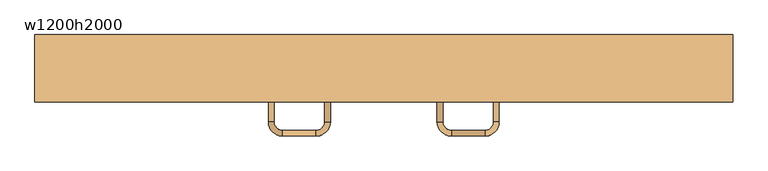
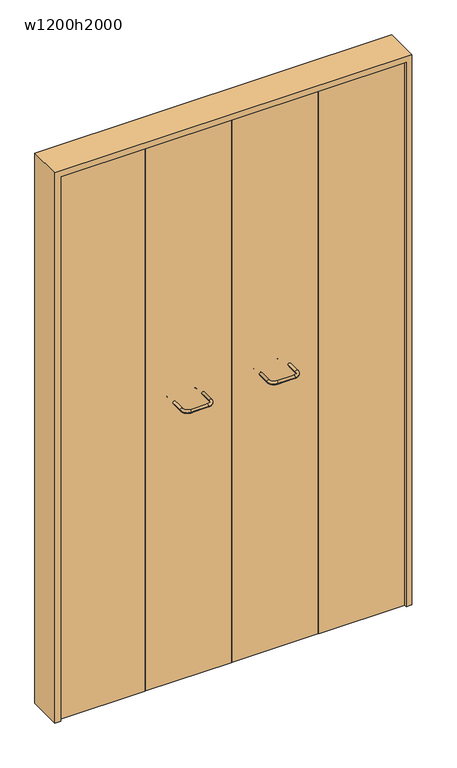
"""IFC4 building model written with IfcOpenShell, lengths in millimetres: door geometry, 木製折戸 : w1200h2000."""

from ifc_helpers import new_model, si_unit, point, frame, origin, origin_with_axes, place, context, project, spatial, polyline, circle_curve, ellipse_curve, trimmed, outline, extrude, source, transform, mapped, element, save
from ifc_brep_helpers import cylinder_surface, revolved_surface, advanced_brep


def w1200h2000_99d19fb3(model_context):
    return source(origin(), model_context, "Body", "SolidModel", [
        extrude(outline(polyline([(2020.0, -620.0), (0.0, -620.0), (0.0, -600.0), (2000.0, -600.0), (2000.0, 600.0), (0.0, 600.0), (0.0, 620.0), (2020.0, 620.0), (2020.0, -620.0)])), frame((0.0, -60.0, 0.0), z_axis=(0.0, 1.0, 0.0), x_axis=(0.0, 0.0, 1.0)), (0.0, 0.0, 1.0), 120.0),
        extrude(outline(polyline([(298.0, -20.0), (298.0, -50.0), (2.0, -50.0), (2.0, -20.0), (298.0, -20.0)])), origin_with_axes(), (0.0, 0.0, 1.0), 2000.0),
        extrude(outline(polyline([(600.0, -20.0), (600.0, -50.0), (302.0, -50.0), (302.0, -20.0), (600.0, -20.0)])), origin_with_axes(), (0.0, 0.0, 1.0), 2000.0),
        extrude(outline(polyline([(-2.0, -20.0), (-2.0, -50.0), (-298.0, -50.0), (-298.0, -20.0), (-2.0, -20.0)])), origin_with_axes(), (0.0, 0.0, 1.0), 2000.0),
        extrude(outline(polyline([(-302.0, -20.0), (-302.0, -50.0), (-600.0, -50.0), (-600.0, -20.0), (-302.0, -20.0)])), origin_with_axes(), (0.0, 0.0, 1.0), 2000.0),
        advanced_brep(
        [(95.0, -20.0, 1025.0), (105.0, -20.0, 1025.0), (120.0, -5.0, 1025.0), (120.0, 5.0, 1025.0), (95.0, -95.0, 1025.0), (105.0, -95.0, 1025.0), (120.0, -120.0, 1025.0), (120.0, -110.0, 1025.0), (180.0, -120.0, 1025.0), (180.0, -110.0, 1025.0), (205.0, -95.0, 1025.0), (195.0, -95.0, 1025.0), (205.0, -20.0, 1025.0), (195.0, -20.0, 1025.0), (180.0, 5.0, 1025.0), (180.0, -5.0, 1025.0)],
        [
            (0, 1, circle_curve(frame((100.0, -20.0, 1025.0), z_axis=(0.0, 1.0, 0.0), x_axis=(-1.0, 0.0, 0.0)), 5.0)),
            (1, 2, circle_curve(frame((120.0, -20.0, 1025.0), z_axis=(0.0, 0.0, -1.0), x_axis=(0.0, 1.0, 0.0)), 15.0)),
            (2, 3, circle_curve(frame((120.0, 0.0, 1025.0), z_axis=(-1.0, 0.0, 0.0), x_axis=(0.0, 1.0, 0.0)), 5.0)),
            (3, 0, circle_curve(frame((120.0, -20.0, 1025.0), z_axis=(0.0, 0.0, 1.0), x_axis=(0.0, 1.0, 0.0)), 25.0)),
            (1, 0, circle_curve(frame((100.0, -20.0, 1025.0), z_axis=(0.0, 1.0, 0.0), x_axis=(-1.0, 0.0, 0.0)), 5.0)),
            (3, 2, circle_curve(frame((120.0, 0.0, 1025.0), z_axis=(-1.0, 0.0, 0.0), x_axis=(0.0, 1.0, 0.0)), 5.0)),
            (0, 4),
            (4, 5, circle_curve(frame((100.0, -95.0, 1025.0), z_axis=(0.0, 1.0, 0.0), x_axis=(-1.0, 0.0, 0.0)), 5.0)),
            (5, 1),
            (5, 4, circle_curve(frame((100.0, -95.0, 1025.0), z_axis=(0.0, 1.0, 0.0), x_axis=(-1.0, 0.0, 0.0)), 5.0)),
            (6, 7, circle_curve(frame((120.0, -115.0, 1025.0), z_axis=(-1.0, 0.0, 0.0), x_axis=(0.0, -1.0, 0.0)), 5.0)),
            (7, 5, circle_curve(frame((120.0, -95.0, 1025.0), z_axis=(0.0, 0.0, -1.0), x_axis=(-1.0, 0.0, 0.0)), 15.0)),
            (4, 6, circle_curve(frame((120.0, -95.0, 1025.0), z_axis=(0.0, 0.0, 1.0), x_axis=(-1.0, 0.0, 0.0)), 25.0)),
            (7, 6, circle_curve(frame((120.0, -115.0, 1025.0), z_axis=(-1.0, 0.0, 0.0), x_axis=(0.0, -1.0, 0.0)), 5.0)),
            (6, 8),
            (8, 9, circle_curve(frame((180.0, -115.0, 1025.0), z_axis=(-1.0, 0.0, 0.0), x_axis=(0.0, -1.0, 0.0)), 5.0)),
            (9, 7),
            (9, 8, circle_curve(frame((180.0, -115.0, 1025.0), z_axis=(-1.0, 0.0, 0.0), x_axis=(0.0, -1.0, 0.0)), 5.0)),
            (10, 11, circle_curve(frame((200.0, -95.0, 1025.0), z_axis=(0.0, -1.0, 0.0), x_axis=(1.0, 0.0, 0.0)), 5.0)),
            (11, 9, circle_curve(frame((180.0, -95.0, 1025.0), z_axis=(0.0, 0.0, -1.0), x_axis=(0.0, -1.0, 0.0)), 15.0)),
            (8, 10, circle_curve(frame((180.0, -95.0, 1025.0), z_axis=(0.0, 0.0, 1.0), x_axis=(0.0, -1.0, 0.0)), 25.0)),
            (11, 10, circle_curve(frame((200.0, -95.0, 1025.0), z_axis=(0.0, -1.0, 0.0), x_axis=(1.0, 0.0, 0.0)), 5.0)),
            (10, 12),
            (12, 13, circle_curve(frame((200.0, -20.0, 1025.0), z_axis=(0.0, -1.0, 0.0), x_axis=(1.0, 0.0, 0.0)), 5.0)),
            (13, 11),
            (13, 12, circle_curve(frame((200.0, -20.0, 1025.0), z_axis=(0.0, -1.0, 0.0), x_axis=(1.0, 0.0, 0.0)), 5.0)),
            (14, 15, circle_curve(frame((180.0, 0.0, 1025.0), z_axis=(1.0, 0.0, 0.0), x_axis=(0.0, 1.0, 0.0)), 5.0)),
            (15, 13, circle_curve(frame((180.0, -20.0, 1025.0), z_axis=(0.0, 0.0, -1.0), x_axis=(1.0, 0.0, 0.0)), 15.0)),
            (12, 14, circle_curve(frame((180.0, -20.0, 1025.0), z_axis=(0.0, 0.0, 1.0), x_axis=(1.0, 0.0, 0.0)), 25.0)),
            (15, 14, circle_curve(frame((180.0, 0.0, 1025.0), z_axis=(1.0, 0.0, 0.0), x_axis=(0.0, 1.0, 0.0)), 5.0)),
            (14, 3),
            (2, 15),
        ],
        [
            revolved_surface(trimmed(ellipse_curve(frame((120.0, 0.0, 1025.0), z_axis=(-1.0, 0.0, 0.0), x_axis=(0.0, 1.0, 0.0)), 5.0, 5.0), [point((120.0, -5.0, 1025.0))], [point((120.0, 5.0, 1025.0))], True, "CARTESIAN"), (120.0, -20.0, 0.0), (0.0, 0.0, -1.0)),
            revolved_surface(trimmed(ellipse_curve(frame((120.0, 0.0, 1025.0), z_axis=(-1.0, 0.0, 0.0), x_axis=(0.0, 1.0, 0.0)), 5.0, 5.0), [point((120.0, 5.0, 1025.0))], [point((120.0, -5.0, 1025.0))], True, "CARTESIAN"), (120.0, -20.0, 0.0), (0.0, 0.0, -1.0)),
            cylinder_surface(frame((100.0, -20.0, 1025.0), z_axis=(0.0, 1.0, 0.0), x_axis=(-1.0, 0.0, 0.0)), 5.0),
            revolved_surface(trimmed(ellipse_curve(frame((100.0, -95.0, 1025.0), z_axis=(0.0, -1.0, 0.0), x_axis=(-1.0, 0.0, 0.0)), 5.0, 5.0), [point((105.0, -95.0, 1025.0))], [point((95.0, -95.0, 1025.0))], True, "CARTESIAN"), (120.0, -95.0, 0.0), (0.0, 0.0, -1.0)),
            revolved_surface(trimmed(ellipse_curve(frame((100.0, -95.0, 1025.0), z_axis=(0.0, -1.0, 0.0), x_axis=(-1.0, 0.0, 0.0)), 5.0, 5.0), [point((95.0, -95.0, 1025.0))], [point((105.0, -95.0, 1025.0))], True, "CARTESIAN"), (120.0, -95.0, 0.0), (0.0, 0.0, -1.0)),
            cylinder_surface(frame((120.0, -115.0, 1025.0), z_axis=(-1.0, 0.0, 0.0), x_axis=(0.0, -1.0, 0.0)), 5.0),
            revolved_surface(trimmed(ellipse_curve(frame((180.0, -115.0, 1025.0), z_axis=(1.0, 0.0, 0.0), x_axis=(0.0, -1.0, 0.0)), 5.0, 5.0), [point((180.0, -110.0, 1025.0))], [point((180.0, -120.0, 1025.0))], True, "CARTESIAN"), (180.0, -95.0, 0.0), (0.0, 0.0, -1.0)),
            revolved_surface(trimmed(ellipse_curve(frame((180.0, -115.0, 1025.0), z_axis=(1.0, 0.0, 0.0), x_axis=(0.0, -1.0, 0.0)), 5.0, 5.0), [point((180.0, -120.0, 1025.0))], [point((180.0, -110.0, 1025.0))], True, "CARTESIAN"), (180.0, -95.0, 0.0), (0.0, 0.0, -1.0)),
            cylinder_surface(frame((200.0, -95.0, 1025.0), z_axis=(0.0, -1.0, 0.0), x_axis=(1.0, 0.0, 0.0)), 5.0),
            revolved_surface(trimmed(ellipse_curve(frame((200.0, -20.0, 1025.0), z_axis=(0.0, 1.0, 0.0), x_axis=(1.0, 0.0, 0.0)), 5.0, 5.0), [point((195.0, -20.0, 1025.0))], [point((205.0, -20.0, 1025.0))], True, "CARTESIAN"), (180.0, -20.0, 0.0), (0.0, 0.0, -1.0)),
            revolved_surface(trimmed(ellipse_curve(frame((200.0, -20.0, 1025.0), z_axis=(0.0, 1.0, 0.0), x_axis=(1.0, 0.0, 0.0)), 5.0, 5.0), [point((205.0, -20.0, 1025.0))], [point((195.0, -20.0, 1025.0))], True, "CARTESIAN"), (180.0, -20.0, 0.0), (0.0, 0.0, -1.0)),
            cylinder_surface(frame((180.0, 0.0, 1025.0), z_axis=(1.0, 0.0, 0.0), x_axis=(0.0, 1.0, 0.0)), 5.0),
        ],
        [
            (0, [[1, 2, 3, 4]]),
            (1, [[5, -4, 6, -2]]),
            (2, [[7, 8, 9, -1]]),
            (2, [[-9, 10, -7, -5]]),
            (3, [[11, 12, -8, 13]]),
            (4, [[14, -13, -10, -12]]),
            (5, [[15, 16, 17, -11]]),
            (5, [[-17, 18, -15, -14]]),
            (6, [[19, 20, -16, 21]]),
            (7, [[22, -21, -18, -20]]),
            (8, [[23, 24, 25, -19]]),
            (8, [[-25, 26, -23, -22]]),
            (9, [[27, 28, -24, 29]]),
            (10, [[30, -29, -26, -28]]),
            (11, [[31, -3, 32, -27]]),
            (11, [[-32, -6, -31, -30]]),
        ],
    ),
        advanced_brep(
        [(-105.0, -20.0, 1025.0), (-95.0, -20.0, 1025.0), (-120.0, 5.0, 1025.0), (-120.0, -5.0, 1025.0), (-105.0, -95.0, 1025.0), (-95.0, -95.0, 1025.0), (-120.0, -110.0, 1025.0), (-120.0, -120.0, 1025.0), (-180.0, -110.0, 1025.0), (-180.0, -120.0, 1025.0), (-195.0, -95.0, 1025.0), (-205.0, -95.0, 1025.0), (-195.0, -20.0, 1025.0), (-205.0, -20.0, 1025.0), (-180.0, -5.0, 1025.0), (-180.0, 5.0, 1025.0)],
        [
            (0, 1, circle_curve(frame((-100.0, -20.0, 1025.0), z_axis=(0.0, 1.0, 0.0), x_axis=(-1.0, 0.0, 0.0)), 5.0)),
            (1, 2, circle_curve(frame((-120.0, -20.0, 1025.0), z_axis=(0.0, 0.0, 1.0), x_axis=(0.0, 1.0, 0.0)), 25.0)),
            (2, 3, circle_curve(frame((-120.0, 0.0, 1025.0), z_axis=(1.0, 0.0, 0.0), x_axis=(0.0, -1.0, 0.0)), 5.0)),
            (3, 0, circle_curve(frame((-120.0, -20.0, 1025.0), z_axis=(0.0, 0.0, -1.0), x_axis=(0.0, 1.0, 0.0)), 15.0)),
            (1, 0, circle_curve(frame((-100.0, -20.0, 1025.0), z_axis=(0.0, 1.0, 0.0), x_axis=(-1.0, 0.0, 0.0)), 5.0)),
            (3, 2, circle_curve(frame((-120.0, 0.0, 1025.0), z_axis=(1.0, 0.0, 0.0), x_axis=(0.0, -1.0, 0.0)), 5.0)),
            (0, 4),
            (4, 5, circle_curve(frame((-100.0, -95.0, 1025.0), z_axis=(0.0, 1.0, 0.0), x_axis=(-1.0, 0.0, 0.0)), 5.0)),
            (5, 1),
            (5, 4, circle_curve(frame((-100.0, -95.0, 1025.0), z_axis=(0.0, 1.0, 0.0), x_axis=(-1.0, 0.0, 0.0)), 5.0)),
            (6, 7, circle_curve(frame((-120.0, -115.0, 1025.0), z_axis=(1.0, 0.0, 0.0), x_axis=(0.0, 1.0, 0.0)), 5.0)),
            (7, 5, circle_curve(frame((-120.0, -95.0, 1025.0), z_axis=(0.0, 0.0, 1.0), x_axis=(1.0, 0.0, 0.0)), 25.0)),
            (4, 6, circle_curve(frame((-120.0, -95.0, 1025.0), z_axis=(0.0, 0.0, -1.0), x_axis=(1.0, 0.0, 0.0)), 15.0)),
            (7, 6, circle_curve(frame((-120.0, -115.0, 1025.0), z_axis=(1.0, 0.0, 0.0), x_axis=(0.0, 1.0, 0.0)), 5.0)),
            (6, 8),
            (8, 9, circle_curve(frame((-180.0, -115.0, 1025.0), z_axis=(1.0, 0.0, 0.0), x_axis=(0.0, 1.0, 0.0)), 5.0)),
            (9, 7),
            (9, 8, circle_curve(frame((-180.0, -115.0, 1025.0), z_axis=(1.0, 0.0, 0.0), x_axis=(0.0, 1.0, 0.0)), 5.0)),
            (10, 11, circle_curve(frame((-200.0, -95.0, 1025.0), z_axis=(0.0, -1.0, 0.0), x_axis=(1.0, 0.0, 0.0)), 5.0)),
            (11, 9, circle_curve(frame((-180.0, -95.0, 1025.0), z_axis=(0.0, 0.0, 1.0), x_axis=(0.0, -1.0, 0.0)), 25.0)),
            (8, 10, circle_curve(frame((-180.0, -95.0, 1025.0), z_axis=(0.0, 0.0, -1.0), x_axis=(0.0, -1.0, 0.0)), 15.0)),
            (11, 10, circle_curve(frame((-200.0, -95.0, 1025.0), z_axis=(0.0, -1.0, 0.0), x_axis=(1.0, 0.0, 0.0)), 5.0)),
            (10, 12),
            (12, 13, circle_curve(frame((-200.0, -20.0, 1025.0), z_axis=(0.0, -1.0, 0.0), x_axis=(1.0, 0.0, 0.0)), 5.0)),
            (13, 11),
            (13, 12, circle_curve(frame((-200.0, -20.0, 1025.0), z_axis=(0.0, -1.0, 0.0), x_axis=(1.0, 0.0, 0.0)), 5.0)),
            (14, 15, circle_curve(frame((-180.0, 0.0, 1025.0), z_axis=(-1.0, 0.0, 0.0), x_axis=(0.0, -1.0, 0.0)), 5.0)),
            (15, 13, circle_curve(frame((-180.0, -20.0, 1025.0), z_axis=(0.0, 0.0, 1.0), x_axis=(-1.0, 0.0, 0.0)), 25.0)),
            (12, 14, circle_curve(frame((-180.0, -20.0, 1025.0), z_axis=(0.0, 0.0, -1.0), x_axis=(-1.0, 0.0, 0.0)), 15.0)),
            (15, 14, circle_curve(frame((-180.0, 0.0, 1025.0), z_axis=(-1.0, 0.0, 0.0), x_axis=(0.0, -1.0, 0.0)), 5.0)),
            (14, 3),
            (2, 15),
        ],
        [
            revolved_surface(trimmed(ellipse_curve(frame((-120.0, 0.0, 1025.0), z_axis=(1.0, 0.0, 0.0), x_axis=(0.0, -1.0, 0.0)), 5.0, 5.0), [point((-120.0, 5.0, 1025.0))], [point((-120.0, -5.0, 1025.0))], True, "CARTESIAN"), (-120.0, -20.0, 0.0), (0.0, 0.0, 1.0)),
            revolved_surface(trimmed(ellipse_curve(frame((-120.0, 0.0, 1025.0), z_axis=(1.0, 0.0, 0.0), x_axis=(0.0, -1.0, 0.0)), 5.0, 5.0), [point((-120.0, -5.0, 1025.0))], [point((-120.0, 5.0, 1025.0))], True, "CARTESIAN"), (-120.0, -20.0, 0.0), (0.0, 0.0, 1.0)),
            cylinder_surface(frame((-100.0, -20.0, 1025.0), z_axis=(0.0, 1.0, 0.0), x_axis=(-1.0, 0.0, 0.0)), 5.0),
            revolved_surface(trimmed(ellipse_curve(frame((-100.0, -95.0, 1025.0), z_axis=(0.0, -1.0, 0.0), x_axis=(-1.0, 0.0, 0.0)), 5.0, 5.0), [point((-95.0, -95.0, 1025.0))], [point((-105.0, -95.0, 1025.0))], True, "CARTESIAN"), (-120.0, -95.0, 0.0), (0.0, 0.0, 1.0)),
            revolved_surface(trimmed(ellipse_curve(frame((-100.0, -95.0, 1025.0), z_axis=(0.0, -1.0, 0.0), x_axis=(-1.0, 0.0, 0.0)), 5.0, 5.0), [point((-105.0, -95.0, 1025.0))], [point((-95.0, -95.0, 1025.0))], True, "CARTESIAN"), (-120.0, -95.0, 0.0), (0.0, 0.0, 1.0)),
            cylinder_surface(frame((-120.0, -115.0, 1025.0), z_axis=(1.0, 0.0, 0.0), x_axis=(0.0, 1.0, 0.0)), 5.0),
            revolved_surface(trimmed(ellipse_curve(frame((-180.0, -115.0, 1025.0), z_axis=(-1.0, 0.0, 0.0), x_axis=(0.0, 1.0, 0.0)), 5.0, 5.0), [point((-180.0, -120.0, 1025.0))], [point((-180.0, -110.0, 1025.0))], True, "CARTESIAN"), (-180.0, -95.0, 0.0), (0.0, 0.0, 1.0)),
            revolved_surface(trimmed(ellipse_curve(frame((-180.0, -115.0, 1025.0), z_axis=(-1.0, 0.0, 0.0), x_axis=(0.0, 1.0, 0.0)), 5.0, 5.0), [point((-180.0, -110.0, 1025.0))], [point((-180.0, -120.0, 1025.0))], True, "CARTESIAN"), (-180.0, -95.0, 0.0), (0.0, 0.0, 1.0)),
            cylinder_surface(frame((-200.0, -95.0, 1025.0), z_axis=(0.0, -1.0, 0.0), x_axis=(1.0, 0.0, 0.0)), 5.0),
            revolved_surface(trimmed(ellipse_curve(frame((-200.0, -20.0, 1025.0), z_axis=(0.0, 1.0, 0.0), x_axis=(1.0, 0.0, 0.0)), 5.0, 5.0), [point((-205.0, -20.0, 1025.0))], [point((-195.0, -20.0, 1025.0))], True, "CARTESIAN"), (-180.0, -20.0, 0.0), (0.0, 0.0, 1.0)),
            revolved_surface(trimmed(ellipse_curve(frame((-200.0, -20.0, 1025.0), z_axis=(0.0, 1.0, 0.0), x_axis=(1.0, 0.0, 0.0)), 5.0, 5.0), [point((-195.0, -20.0, 1025.0))], [point((-205.0, -20.0, 1025.0))], True, "CARTESIAN"), (-180.0, -20.0, 0.0), (0.0, 0.0, 1.0)),
            cylinder_surface(frame((-180.0, 0.0, 1025.0), z_axis=(-1.0, 0.0, 0.0), x_axis=(0.0, -1.0, 0.0)), 5.0),
        ],
        [
            (0, [[1, 2, 3, 4]]),
            (1, [[5, -4, 6, -2]]),
            (2, [[7, 8, 9, -1]]),
            (2, [[-9, 10, -7, -5]]),
            (3, [[11, 12, -8, 13]]),
            (4, [[14, -13, -10, -12]]),
            (5, [[15, 16, 17, -11]]),
            (5, [[-17, 18, -15, -14]]),
            (6, [[19, 20, -16, 21]]),
            (7, [[22, -21, -18, -20]]),
            (8, [[23, 24, 25, -19]]),
            (8, [[-25, 26, -23, -22]]),
            (9, [[27, 28, -24, 29]]),
            (10, [[30, -29, -26, -28]]),
            (11, [[31, -3, 32, -27]]),
            (11, [[-32, -6, -31, -30]]),
        ],
    ),
    ])


if __name__ == "__main__":
    model = new_model("IFC4")
    model_context = context("Model", 3, world=origin())
    ifc_project = project(units=[si_unit("LENGTHUNIT", "METRE", prefix="MILLI")], contexts=[model_context])
    site = spatial("IfcSite", under=ifc_project)
    building = spatial("IfcBuilding", under=site)
    placement = place(None, origin())
    w1200h2000_shape = w1200h2000_99d19fb3(model_context)
    element("IfcDoor", 1, ObjectType="木製折戸 : w1200h2000", at=placement, inside=building, context=model_context, shape_type="MappedRepresentation", body=[
        mapped(w1200h2000_shape, transform((0.0, 0.0, 0.0), x_axis=(1.0, 0.0, 0.0), y_axis=(0.0, 1.0, 0.0), z_axis=(0.0, 0.0, 1.0))),
    ])
    save(model, "model.ifc")
